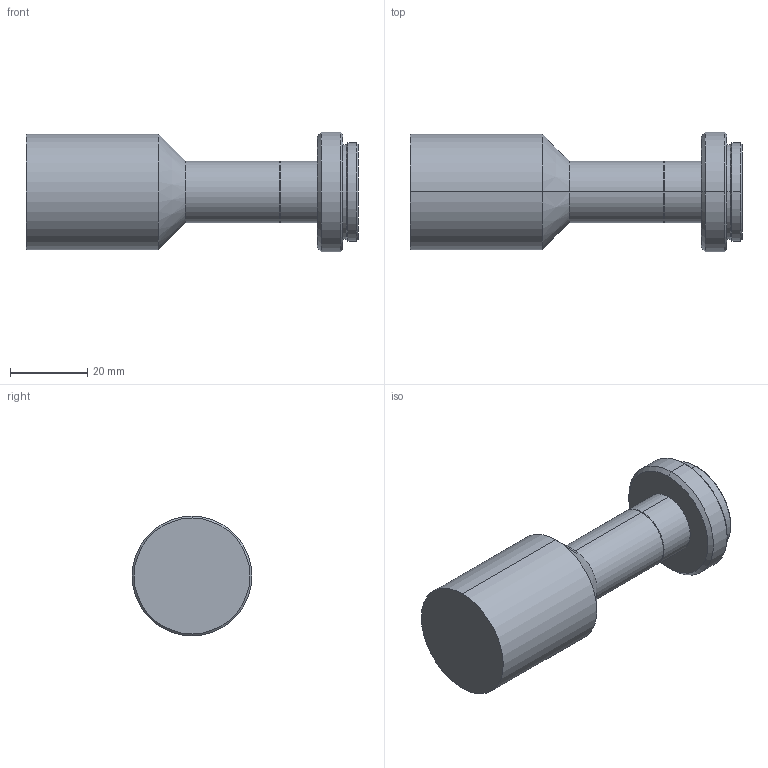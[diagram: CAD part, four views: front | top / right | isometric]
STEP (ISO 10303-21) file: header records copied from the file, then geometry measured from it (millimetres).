
FILE_DESCRIPTION (( 'STEP AP203' ), '1' );
FILE_NAME ('VS-TC05-150.STEP', '2015-07-01T06:47:06', ( 'miura_vst' ), ( '' ), 'SwSTEP 2.0', 'SolidWorks 2015', '' );
FILE_SCHEMA (( 'CONFIG_CONTROL_DESIGN' ));
Length unit declared in the file: millimetre
Products named in the file (1): VS-TC05-150
Bounding box: 86 x 31 x 31 mm (x, y, z)
Volume: 40948.4 mm3; surface area: 8574.2 mm2
Topology: 1 solids, 1 shells, 30 faces, 58 edges, 32 vertices
Faces by surface type: cone 14, cylinder 12, plane 4
Entity records: 831 total; most frequent: DIRECTION 152, CARTESIAN_POINT 121, ORIENTED_EDGE 116, AXIS2_PLACEMENT_3D 63, EDGE_CURVE 58, VERTEX_POINT 32, EDGE_LOOP 32, CIRCLE 32
